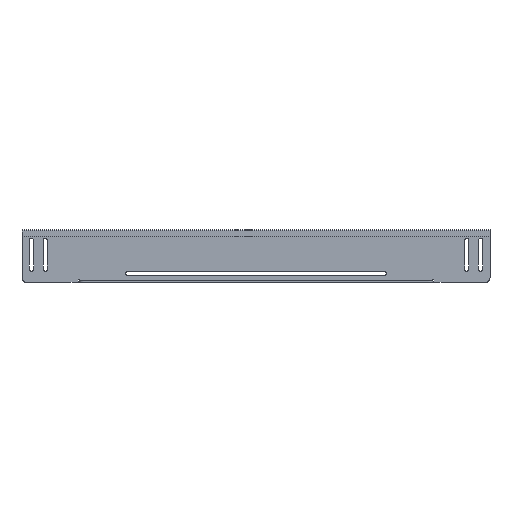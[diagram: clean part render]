
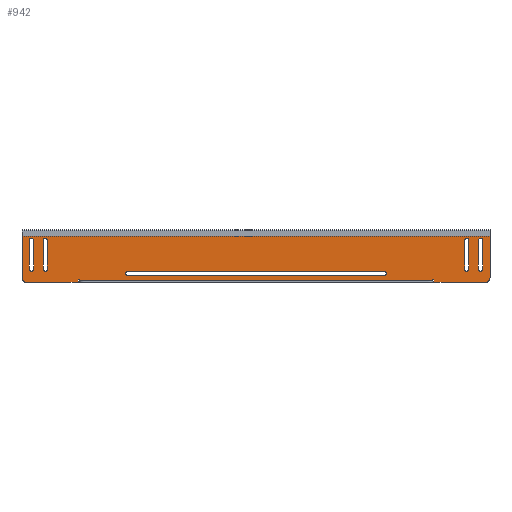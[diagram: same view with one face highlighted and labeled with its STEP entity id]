
A CAD part, top view. The second image highlights one B-rep face of the part: STEP entity #942.
In plain terms, the highlighted planar face has unit normal (0, 0, 1).
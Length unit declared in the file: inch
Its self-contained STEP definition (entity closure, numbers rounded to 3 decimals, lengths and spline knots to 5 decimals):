
#167=CARTESIAN_POINT('',(-12.78,2.3775,0.09));
#168=DIRECTION('',(0.,0.,-1.));
#169=DIRECTION('',(-1.,0.,0.));
#170=AXIS2_PLACEMENT_3D('',#167,#168,#169);
#172=DIRECTION('',(0.,1.,0.));
#173=VECTOR('',#172,1.62);
#174=CARTESIAN_POINT('',(-12.905,0.7575,0.09));
#175=LINE('',#174,#173);
#176=CARTESIAN_POINT('',(-12.78,0.7575,0.09));
#177=DIRECTION('',(0.,0.,-1.));
#178=DIRECTION('',(1.,0.,0.));
#179=AXIS2_PLACEMENT_3D('',#176,#177,#178);
#181=DIRECTION('',(0.,-1.,0.));
#182=VECTOR('',#181,1.62);
#183=CARTESIAN_POINT('',(-12.655,2.3775,0.09));
#184=LINE('',#183,#182);
#185=CARTESIAN_POINT('',(12.78,2.3775,0.09));
#186=DIRECTION('',(0.,0.,-1.));
#187=DIRECTION('',(-1.,0.,0.));
#188=AXIS2_PLACEMENT_3D('',#185,#186,#187);
#190=DIRECTION('',(0.,1.,0.));
#191=VECTOR('',#190,1.62);
#192=CARTESIAN_POINT('',(12.655,0.7575,0.09));
#193=LINE('',#192,#191);
#194=CARTESIAN_POINT('',(12.78,0.7575,0.09));
#195=DIRECTION('',(0.,0.,-1.));
#196=DIRECTION('',(1.,0.,0.));
#197=AXIS2_PLACEMENT_3D('',#194,#195,#196);
#199=DIRECTION('',(0.,-1.,0.));
#200=VECTOR('',#199,1.62);
#201=CARTESIAN_POINT('',(12.905,2.3775,0.09));
#202=LINE('',#201,#200);
#203=DIRECTION('',(0.,-1.,0.));
#204=VECTOR('',#203,1.62);
#205=CARTESIAN_POINT('',(12.112,2.3775,0.09));
#206=LINE('',#205,#204);
#207=CARTESIAN_POINT('',(11.987,2.3775,0.09));
#208=DIRECTION('',(0.,0.,-1.));
#209=DIRECTION('',(-1.,0.,0.));
#210=AXIS2_PLACEMENT_3D('',#207,#208,#209);
#212=DIRECTION('',(0.,1.,0.));
#213=VECTOR('',#212,1.62);
#214=CARTESIAN_POINT('',(11.862,0.7575,0.09));
#215=LINE('',#214,#213);
#216=CARTESIAN_POINT('',(11.987,0.7575,0.09));
#217=DIRECTION('',(0.,0.,-1.));
#218=DIRECTION('',(1.,0.,0.));
#219=AXIS2_PLACEMENT_3D('',#216,#217,#218);
#221=CARTESIAN_POINT('',(-11.987,2.3775,0.09));
#222=DIRECTION('',(0.,0.,-1.));
#223=DIRECTION('',(-1.,0.,0.));
#224=AXIS2_PLACEMENT_3D('',#221,#222,#223);
#226=DIRECTION('',(0.,1.,0.));
#227=VECTOR('',#226,1.62);
#228=CARTESIAN_POINT('',(-12.112,0.7575,0.09));
#229=LINE('',#228,#227);
#230=CARTESIAN_POINT('',(-11.987,0.7575,0.09));
#231=DIRECTION('',(0.,0.,-1.));
#232=DIRECTION('',(1.,0.,0.));
#233=AXIS2_PLACEMENT_3D('',#230,#231,#232);
#235=DIRECTION('',(0.,-1.,0.));
#236=VECTOR('',#235,1.62);
#237=CARTESIAN_POINT('',(-11.862,2.3775,0.09));
#238=LINE('',#237,#236);
#239=DIRECTION('',(1.,0.,0.));
#240=VECTOR('',#239,14.62);
#241=CARTESIAN_POINT('',(-7.31,0.4015,0.09));
#242=LINE('',#241,#240);
#243=CARTESIAN_POINT('',(7.31,0.502,0.09));
#244=DIRECTION('',(0.,0.,1.));
#245=DIRECTION('',(0.,-1.,0.));
#246=AXIS2_PLACEMENT_3D('',#243,#244,#245);
#248=DIRECTION('',(-1.,0.,0.));
#249=VECTOR('',#248,14.62);
#250=CARTESIAN_POINT('',(7.31,0.6025,0.09));
#251=LINE('',#250,#249);
#252=CARTESIAN_POINT('',(-7.31,0.502,0.09));
#253=DIRECTION('',(0.,0.,1.));
#254=DIRECTION('',(0.,1.,0.));
#255=AXIS2_PLACEMENT_3D('',#252,#253,#254);
#257=DIRECTION('',(1.,0.,0.));
#258=VECTOR('',#257,20.12);
#259=CARTESIAN_POINT('',(-10.06,0.121,0.09));
#260=LINE('',#259,#258);
#261=DIRECTION('',(0.,1.,0.));
#262=VECTOR('',#261,0.031);
#263=CARTESIAN_POINT('',(-10.06,0.121,0.09));
#264=LINE('',#263,#262);
#265=CARTESIAN_POINT('',(-10.09,0.152,0.09));
#266=DIRECTION('',(0.,0.,-1.));
#267=DIRECTION('',(-1.,0.,0.));
#268=AXIS2_PLACEMENT_3D('',#265,#266,#267);
#270=DIRECTION('',(0.,1.,0.));
#271=VECTOR('',#270,0.152);
#272=CARTESIAN_POINT('',(-10.12,0.,0.09));
#273=LINE('',#272,#271);
#274=DIRECTION('',(0.,1.,0.));
#275=VECTOR('',#274,2.37);
#276=CARTESIAN_POINT('',(-13.31,0.25,0.09));
#277=LINE('',#276,#275);
#278=DIRECTION('',(1.,0.,0.));
#279=VECTOR('',#278,26.62);
#280=CARTESIAN_POINT('',(-13.31,2.62,0.09));
#281=LINE('',#280,#279);
#282=DIRECTION('',(0.,-1.,0.));
#283=VECTOR('',#282,2.37);
#284=CARTESIAN_POINT('',(13.31,2.62,0.09));
#285=LINE('',#284,#283);
#286=DIRECTION('',(0.,1.,0.));
#287=VECTOR('',#286,0.152);
#288=CARTESIAN_POINT('',(10.12,0.,0.09));
#289=LINE('',#288,#287);
#290=CARTESIAN_POINT('',(10.09,0.152,0.09));
#291=DIRECTION('',(0.,0.,-1.));
#292=DIRECTION('',(-1.,0.,0.));
#293=AXIS2_PLACEMENT_3D('',#290,#291,#292);
#295=DIRECTION('',(0.,1.,0.));
#296=VECTOR('',#295,0.031);
#297=CARTESIAN_POINT('',(10.06,0.121,0.09));
#298=LINE('',#297,#296);
#427=DIRECTION('',(-1.,0.,0.));
#428=VECTOR('',#427,2.94);
#429=CARTESIAN_POINT('',(13.06,0.,0.09));
#430=LINE('',#429,#428);
#435=DIRECTION('',(1.,0.,0.));
#436=VECTOR('',#435,2.94);
#437=CARTESIAN_POINT('',(-13.06,0.,0.09));
#438=LINE('',#437,#436);
#459=CARTESIAN_POINT('',(13.06,0.25,0.09));
#460=DIRECTION('',(0.,0.,1.));
#461=DIRECTION('',(0.,-1.,0.));
#462=AXIS2_PLACEMENT_3D('',#459,#460,#461);
#498=CARTESIAN_POINT('',(-13.06,0.25,0.09));
#499=DIRECTION('',(0.,0.,1.));
#500=DIRECTION('',(-1.,0.,0.));
#501=AXIS2_PLACEMENT_3D('',#498,#499,#500);
#543=CARTESIAN_POINT('',(-12.905,2.3775,0.09));
#544=CARTESIAN_POINT('',(-12.655,2.3775,0.09));
#545=VERTEX_POINT('',#543);
#546=VERTEX_POINT('',#544);
#547=CARTESIAN_POINT('',(-12.655,0.7575,0.09));
#548=VERTEX_POINT('',#547);
#549=CARTESIAN_POINT('',(-12.905,0.7575,0.09));
#550=VERTEX_POINT('',#549);
#551=CARTESIAN_POINT('',(12.655,2.3775,0.09));
#552=CARTESIAN_POINT('',(12.905,2.3775,0.09));
#553=VERTEX_POINT('',#551);
#554=VERTEX_POINT('',#552);
#555=CARTESIAN_POINT('',(12.905,0.7575,0.09));
#556=VERTEX_POINT('',#555);
#557=CARTESIAN_POINT('',(12.655,0.7575,0.09));
#558=VERTEX_POINT('',#557);
#579=CARTESIAN_POINT('',(-13.31,2.62,0.09));
#580=CARTESIAN_POINT('',(13.31,2.62,0.09));
#581=VERTEX_POINT('',#579);
#582=VERTEX_POINT('',#580);
#584=CARTESIAN_POINT('',(-13.06,0.,0.09));
#586=VERTEX_POINT('',#584);
#589=CARTESIAN_POINT('',(-13.31,0.25,0.09));
#590=VERTEX_POINT('',#589);
#607=CARTESIAN_POINT('',(13.06,0.,0.09));
#609=VERTEX_POINT('',#607);
#611=CARTESIAN_POINT('',(13.31,0.25,0.09));
#612=VERTEX_POINT('',#611);
#615=CARTESIAN_POINT('',(10.06,0.152,0.09));
#616=CARTESIAN_POINT('',(10.12,0.152,0.09));
#617=VERTEX_POINT('',#615);
#618=VERTEX_POINT('',#616);
#619=CARTESIAN_POINT('',(10.12,0.,0.09));
#620=VERTEX_POINT('',#619);
#621=CARTESIAN_POINT('',(-10.12,0.,0.09));
#622=CARTESIAN_POINT('',(-10.12,0.152,0.09));
#623=VERTEX_POINT('',#621);
#624=VERTEX_POINT('',#622);
#625=CARTESIAN_POINT('',(-10.06,0.152,0.09));
#626=VERTEX_POINT('',#625);
#647=CARTESIAN_POINT('',(-7.31,0.4015,0.09));
#648=CARTESIAN_POINT('',(7.31,0.4015,0.09));
#649=VERTEX_POINT('',#647);
#650=VERTEX_POINT('',#648);
#651=CARTESIAN_POINT('',(7.31,0.6025,0.09));
#652=CARTESIAN_POINT('',(-7.31,0.6025,0.09));
#653=VERTEX_POINT('',#651);
#654=VERTEX_POINT('',#652);
#663=CARTESIAN_POINT('',(12.112,2.3775,0.09));
#664=CARTESIAN_POINT('',(12.112,0.7575,0.09));
#665=VERTEX_POINT('',#663);
#666=VERTEX_POINT('',#664);
#667=CARTESIAN_POINT('',(11.862,0.7575,0.09));
#668=VERTEX_POINT('',#667);
#669=CARTESIAN_POINT('',(11.862,2.3775,0.09));
#670=VERTEX_POINT('',#669);
#671=CARTESIAN_POINT('',(-12.112,2.3775,0.09));
#672=CARTESIAN_POINT('',(-11.862,2.3775,0.09));
#673=VERTEX_POINT('',#671);
#674=VERTEX_POINT('',#672);
#675=CARTESIAN_POINT('',(-11.862,0.7575,0.09));
#676=VERTEX_POINT('',#675);
#677=CARTESIAN_POINT('',(-12.112,0.7575,0.09));
#678=VERTEX_POINT('',#677);
#699=CARTESIAN_POINT('',(-10.06,0.121,0.09));
#700=CARTESIAN_POINT('',(10.06,0.121,0.09));
#701=VERTEX_POINT('',#699);
#702=VERTEX_POINT('',#700);
#859=CARTESIAN_POINT('',(-13.31,3.,0.09));
#860=DIRECTION('',(0.,0.,1.));
#861=DIRECTION('',(0.,-1.,0.));
#862=AXIS2_PLACEMENT_3D('',#859,#860,#861);
#863=PLANE('',#862);
#865=ORIENTED_EDGE('',*,*,#864,.F.);
#867=ORIENTED_EDGE('',*,*,#866,.T.);
#869=ORIENTED_EDGE('',*,*,#868,.F.);
#871=ORIENTED_EDGE('',*,*,#870,.F.);
#873=ORIENTED_EDGE('',*,*,#872,.F.);
#875=ORIENTED_EDGE('',*,*,#874,.F.);
#876=ORIENTED_EDGE('',*,*,#720,.T.);
#878=ORIENTED_EDGE('',*,*,#877,.T.);
#880=ORIENTED_EDGE('',*,*,#879,.T.);
#882=ORIENTED_EDGE('',*,*,#881,.F.);
#884=ORIENTED_EDGE('',*,*,#883,.T.);
#886=ORIENTED_EDGE('',*,*,#885,.T.);
#888=ORIENTED_EDGE('',*,*,#887,.F.);
#890=ORIENTED_EDGE('',*,*,#889,.F.);
#891=EDGE_LOOP('',(#865,#867,#869,#871,#873,#875,#876,#878,#880,#882,#884,#886,
#888,#890));
#892=FACE_OUTER_BOUND('',#891,.F.);
#894=ORIENTED_EDGE('',*,*,#893,.F.);
#896=ORIENTED_EDGE('',*,*,#895,.F.);
#898=ORIENTED_EDGE('',*,*,#897,.F.);
#900=ORIENTED_EDGE('',*,*,#899,.F.);
#901=EDGE_LOOP('',(#894,#896,#898,#900));
#902=FACE_BOUND('',#901,.F.);
#904=ORIENTED_EDGE('',*,*,#903,.F.);
#906=ORIENTED_EDGE('',*,*,#905,.F.);
#908=ORIENTED_EDGE('',*,*,#907,.F.);
#910=ORIENTED_EDGE('',*,*,#909,.F.);
#911=EDGE_LOOP('',(#904,#906,#908,#910));
#912=FACE_BOUND('',#911,.F.);
#914=ORIENTED_EDGE('',*,*,#913,.F.);
#916=ORIENTED_EDGE('',*,*,#915,.F.);
#918=ORIENTED_EDGE('',*,*,#917,.F.);
#920=ORIENTED_EDGE('',*,*,#919,.F.);
#921=EDGE_LOOP('',(#914,#916,#918,#920));
#922=FACE_BOUND('',#921,.F.);
#924=ORIENTED_EDGE('',*,*,#923,.T.);
#926=ORIENTED_EDGE('',*,*,#925,.T.);
#928=ORIENTED_EDGE('',*,*,#927,.T.);
#930=ORIENTED_EDGE('',*,*,#929,.T.);
#931=EDGE_LOOP('',(#924,#926,#928,#930));
#932=FACE_BOUND('',#931,.F.);
#933=ORIENTED_EDGE('',*,*,#849,.F.);
#935=ORIENTED_EDGE('',*,*,#934,.F.);
#937=ORIENTED_EDGE('',*,*,#936,.F.);
#939=ORIENTED_EDGE('',*,*,#938,.F.);
#940=EDGE_LOOP('',(#933,#935,#937,#939));
#941=FACE_BOUND('',#940,.F.);
#942=ADVANCED_FACE('',(#892,#902,#912,#922,#932,#941),#863,.T.);
#171=CIRCLE('',#170,0.125);
#180=CIRCLE('',#179,0.125);
#189=CIRCLE('',#188,0.125);
#198=CIRCLE('',#197,0.125);
#211=CIRCLE('',#210,0.125);
#220=CIRCLE('',#219,0.125);
#225=CIRCLE('',#224,0.125);
#234=CIRCLE('',#233,0.125);
#247=CIRCLE('',#246,0.1005);
#256=CIRCLE('',#255,0.1005);
#269=CIRCLE('',#268,0.03);
#294=CIRCLE('',#293,0.03);
#463=CIRCLE('',#462,0.25);
#502=CIRCLE('',#501,0.25);
#720=EDGE_CURVE('',#590,#581,#277,.T.);
#849=EDGE_CURVE('',#545,#546,#171,.T.);
#864=EDGE_CURVE('',#701,#702,#260,.T.);
#866=EDGE_CURVE('',#701,#626,#264,.T.);
#868=EDGE_CURVE('',#624,#626,#269,.T.);
#870=EDGE_CURVE('',#623,#624,#273,.T.);
#872=EDGE_CURVE('',#586,#623,#438,.T.);
#874=EDGE_CURVE('',#590,#586,#502,.T.);
#877=EDGE_CURVE('',#581,#582,#281,.T.);
#879=EDGE_CURVE('',#582,#612,#285,.T.);
#881=EDGE_CURVE('',#609,#612,#463,.T.);
#883=EDGE_CURVE('',#609,#620,#430,.T.);
#885=EDGE_CURVE('',#620,#618,#289,.T.);
#887=EDGE_CURVE('',#617,#618,#294,.T.);
#889=EDGE_CURVE('',#702,#617,#298,.T.);
#893=EDGE_CURVE('',#553,#554,#189,.T.);
#895=EDGE_CURVE('',#558,#553,#193,.T.);
#897=EDGE_CURVE('',#556,#558,#198,.T.);
#899=EDGE_CURVE('',#554,#556,#202,.T.);
#903=EDGE_CURVE('',#665,#666,#206,.T.);
#905=EDGE_CURVE('',#670,#665,#211,.T.);
#907=EDGE_CURVE('',#668,#670,#215,.T.);
#909=EDGE_CURVE('',#666,#668,#220,.T.);
#913=EDGE_CURVE('',#673,#674,#225,.T.);
#915=EDGE_CURVE('',#678,#673,#229,.T.);
#917=EDGE_CURVE('',#676,#678,#234,.T.);
#919=EDGE_CURVE('',#674,#676,#238,.T.);
#923=EDGE_CURVE('',#649,#650,#242,.T.);
#925=EDGE_CURVE('',#650,#653,#247,.T.);
#927=EDGE_CURVE('',#653,#654,#251,.T.);
#929=EDGE_CURVE('',#654,#649,#256,.T.);
#934=EDGE_CURVE('',#550,#545,#175,.T.);
#936=EDGE_CURVE('',#548,#550,#180,.T.);
#938=EDGE_CURVE('',#546,#548,#184,.T.);
